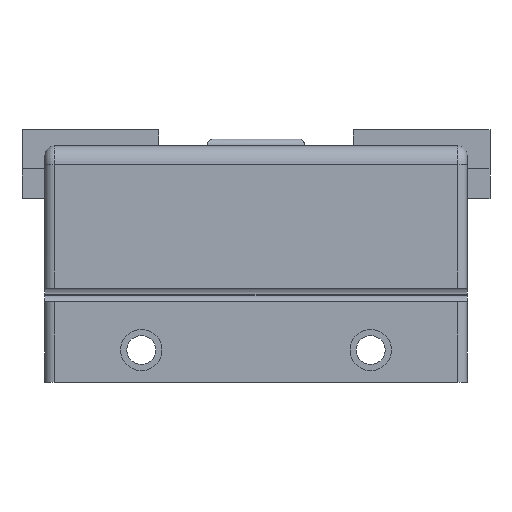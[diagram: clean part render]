
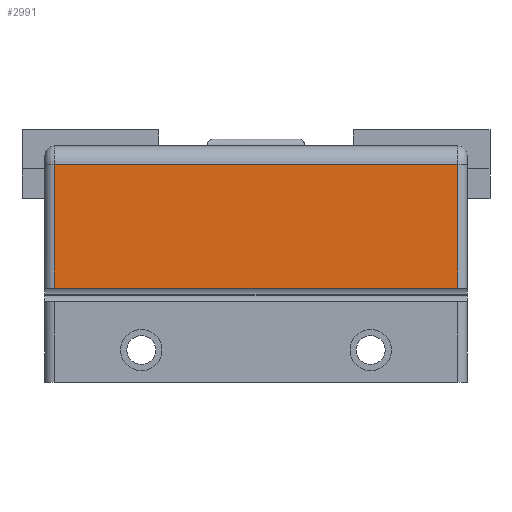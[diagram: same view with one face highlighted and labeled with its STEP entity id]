
A CAD part, front view. The second image highlights one B-rep face of the part: STEP entity #2991.
In plain terms, the highlighted planar face has unit normal (0, -1, 0).
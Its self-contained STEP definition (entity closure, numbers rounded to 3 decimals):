
#63 = VERTEX_POINT ( 'NONE', #1754 ) ;
#159 = LINE ( 'NONE', #3695, #4753 ) ;
#237 = VERTEX_POINT ( 'NONE', #1959 ) ;
#334 = ORIENTED_EDGE ( 'NONE', *, *, #5030, .T. ) ;
#733 = FACE_OUTER_BOUND ( 'NONE', #3139, .T. ) ;
#843 = ORIENTED_EDGE ( 'NONE', *, *, #4686, .T. ) ;
#892 = DIRECTION ( 'NONE',  ( 1., 0., 0. ) ) ;
#922 = VECTOR ( 'NONE', #892, 1000. ) ;
#1161 = ORIENTED_EDGE ( 'NONE', *, *, #4811, .T. ) ;
#1174 = DIRECTION ( 'NONE',  ( 0., 1., 0. ) ) ;
#1452 = DIRECTION ( 'NONE',  ( 0., 0., 1. ) ) ;
#1656 = ORIENTED_EDGE ( 'NONE', *, *, #1973, .T. ) ;
#1754 = CARTESIAN_POINT ( 'NONE',  ( -44., -18.5, 47.5 ) ) ;
#1959 = CARTESIAN_POINT ( 'NONE',  ( -44., -18.5, 20.5 ) ) ;
#1973 = EDGE_CURVE ( 'NONE', #4374, #63, #4412, .T. ) ;
#2458 = CARTESIAN_POINT ( 'NONE',  ( 46., -18.5, 47.5 ) ) ;
#2905 = LINE ( 'NONE', #3243, #922 ) ;
#2991 = ADVANCED_FACE ( 'NONE', ( #733 ), #4303, .F. ) ;
#3139 = EDGE_LOOP ( 'NONE', ( #1656, #334, #843, #1161 ) ) ;
#3243 = CARTESIAN_POINT ( 'NONE',  ( -46., -18.5, 20.5 ) ) ;
#3421 = CARTESIAN_POINT ( 'NONE',  ( 46., -18.5, 51.5 ) ) ;
#3556 = CARTESIAN_POINT ( 'NONE',  ( 44., -18.5, 20.5 ) ) ;
#3695 = CARTESIAN_POINT ( 'NONE',  ( -44., -18.5, 51.5 ) ) ;
#3836 = CARTESIAN_POINT ( 'NONE',  ( 44., -18.5, 47.5 ) ) ;
#3915 = DIRECTION ( 'NONE',  ( 0., 0., 1. ) ) ;
#3989 = DIRECTION ( 'NONE',  ( 0., 0., -1. ) ) ;
#4056 = DIRECTION ( 'NONE',  ( -1., 0., 0. ) ) ;
#4154 = VERTEX_POINT ( 'NONE', #3556 ) ;
#4303 = PLANE ( 'NONE',  #4872 ) ;
#4353 = VECTOR ( 'NONE', #1452, 1000. ) ;
#4374 = VERTEX_POINT ( 'NONE', #4940 ) ;
#4412 = LINE ( 'NONE', #2458, #4858 ) ;
#4686 = EDGE_CURVE ( 'NONE', #237, #4154, #2905, .T. ) ;
#4753 = VECTOR ( 'NONE', #3989, 1000. ) ;
#4811 = EDGE_CURVE ( 'NONE', #4154, #4374, #4960, .T. ) ;
#4858 = VECTOR ( 'NONE', #4056, 1000. ) ;
#4872 = AXIS2_PLACEMENT_3D ( 'NONE', #3421, #1174, #3915 ) ;
#4940 = CARTESIAN_POINT ( 'NONE',  ( 44., -18.5, 47.5 ) ) ;
#4960 = LINE ( 'NONE', #3836, #4353 ) ;
#5030 = EDGE_CURVE ( 'NONE', #63, #237, #159, .T. ) ;
